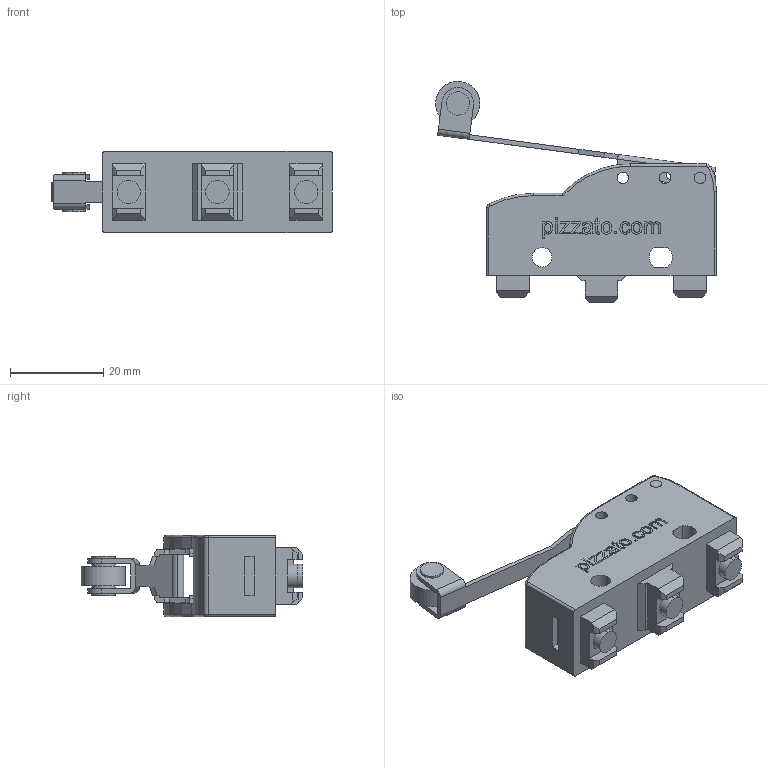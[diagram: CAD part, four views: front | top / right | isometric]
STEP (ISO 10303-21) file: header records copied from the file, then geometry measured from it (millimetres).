
FILE_DESCRIPTION (( 'STEP AP203' ), '1' );
FILE_NAME ('Pizzato_MK_VxxF40.STEP', '2009-02-13T16:45:30', ( 'mario' ), ( '' ), 'SwSTEP 2.0', 'SolidWorks 2009', '' );
FILE_SCHEMA (( 'CONFIG_CONTROL_DESIGN' ));
Length unit declared in the file: millimetre
Products named in the file (4): Pizzato_Custodia_MK_MKV_Leva; Pizzato_Leva_MK40_MK40; Pizzato_MK_VxxF40; Pizzato_Perno Leva
Assembly tree (3 placements, depth 2):
  Pizzato_MK_VxxF40
    Pizzato_Custodia_MK_MKV_Leva
    Pizzato_Perno Leva
    Pizzato_Leva_MK40_MK40
Bounding box: 60.09 x 47.39 x 17.4 mm (x, y, z)
Volume: 17355.6 mm3; surface area: 7870.8 mm2
Topology: 3 solids, 3 shells, 492 faces, 1310 edges, 866 vertices
Faces by surface type: plane 310, cylinder 103, bspline 69, torus 10
Entity records: 19032 total; most frequent: CARTESIAN_POINT 6573, ORIENTED_EDGE 2620, DIRECTION 2246, EDGE_CURVE 1310, VECTOR 952, LINE 952, VERTEX_POINT 866, AXIS2_PLACEMENT_3D 647
